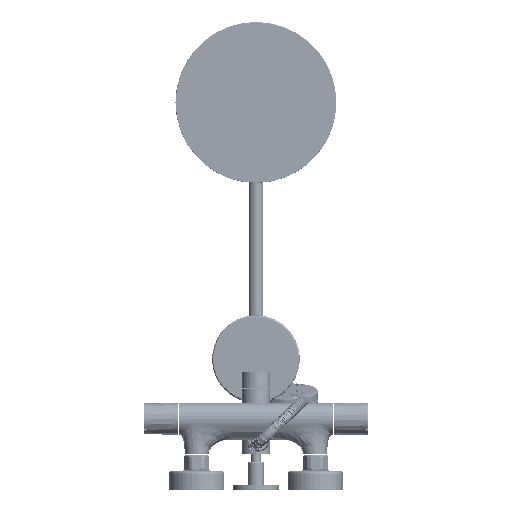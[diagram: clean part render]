
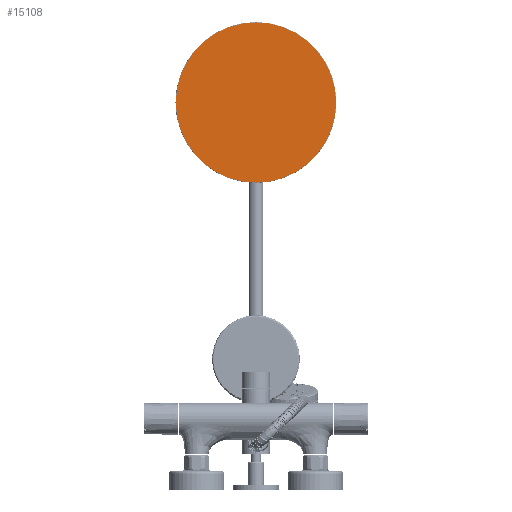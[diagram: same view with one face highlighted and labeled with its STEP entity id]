
A CAD part, front view. The second image highlights one B-rep face of the part: STEP entity #15108.
In plain terms, the highlighted planar face has unit normal (0, -1, 0).
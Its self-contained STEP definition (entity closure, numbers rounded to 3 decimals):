
#14911=CARTESIAN_POINT('',(0.,1217.18,400.));
#14912=DIRECTION('',(0.,-1.,0.));
#14913=DIRECTION('',(1.,0.,0.));
#14914=AXIS2_PLACEMENT_3D('',#14911,#14912,#14913);
#14916=CARTESIAN_POINT('',(0.,1217.18,400.));
#14917=DIRECTION('',(0.,-1.,0.));
#14918=DIRECTION('',(-1.,0.,0.));
#14919=AXIS2_PLACEMENT_3D('',#14916,#14917,#14918);
#15053=CARTESIAN_POINT('',(101.304,1217.18,400.));
#15054=CARTESIAN_POINT('',(-101.304,1217.18,400.));
#15055=VERTEX_POINT('',#15053);
#15056=VERTEX_POINT('',#15054);
#15097=CARTESIAN_POINT('',(0.,1217.18,400.));
#15098=DIRECTION('',(0.,1.,0.));
#15099=DIRECTION('',(-1.,0.,0.));
#15100=AXIS2_PLACEMENT_3D('',#15097,#15098,#15099);
#15101=PLANE('',#15100);
#15103=ORIENTED_EDGE('',*,*,#15102,.F.);
#15105=ORIENTED_EDGE('',*,*,#15104,.F.);
#15106=EDGE_LOOP('',(#15103,#15105));
#15107=FACE_OUTER_BOUND('',#15106,.F.);
#15108=ADVANCED_FACE('',(#15107),#15101,.F.);
#14915=CIRCLE('',#14914,101.304);
#14920=CIRCLE('',#14919,101.304);
#15102=EDGE_CURVE('',#15055,#15056,#14915,.T.);
#15104=EDGE_CURVE('',#15056,#15055,#14920,.T.);
